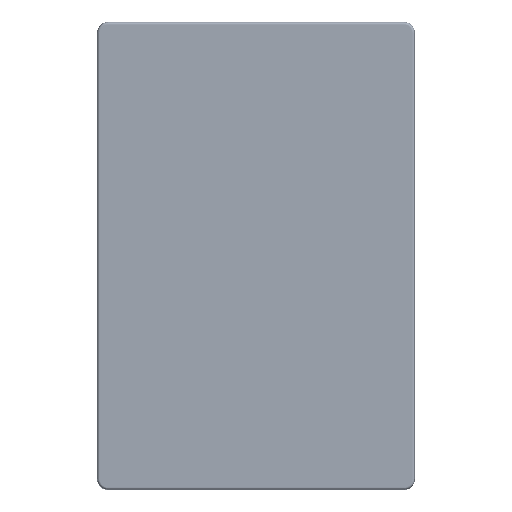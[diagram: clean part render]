
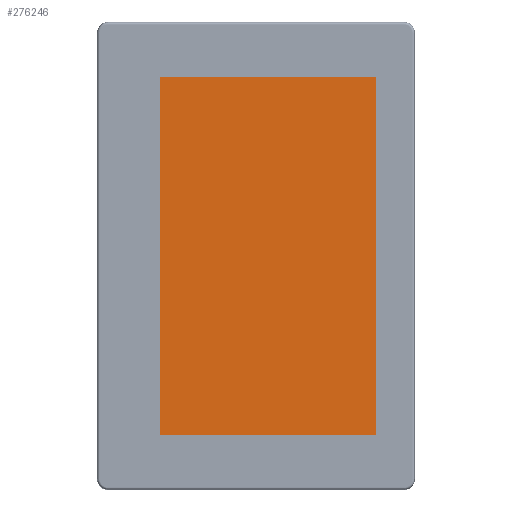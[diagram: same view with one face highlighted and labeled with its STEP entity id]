
A CAD part, top view. The second image highlights one B-rep face of the part: STEP entity #276246.
In plain terms, the highlighted planar face has unit normal (0, 0, 1).
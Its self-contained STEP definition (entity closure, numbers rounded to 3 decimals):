
#262493=DIRECTION('',(0.,-1.,0.));
#262494=VECTOR('',#262493,91.2);
#262495=CARTESIAN_POINT('',(75.7,50.6,0.1));
#262496=LINE('',#262495,#262494);
#262500=DIRECTION('',(-1.,0.,0.));
#262501=VECTOR('',#262500,151.4);
#262502=CARTESIAN_POINT('',(75.7,-40.6,0.1));
#262503=LINE('',#262502,#262501);
#262507=DIRECTION('',(0.,1.,0.));
#262508=VECTOR('',#262507,91.2);
#262509=CARTESIAN_POINT('',(-75.7,-40.6,0.1));
#262510=LINE('',#262509,#262508);
#262514=DIRECTION('',(1.,0.,0.));
#262515=VECTOR('',#262514,151.4);
#262516=CARTESIAN_POINT('',(-75.7,50.6,0.1));
#262517=LINE('',#262516,#262515);
#273419=CARTESIAN_POINT('',(75.7,50.6,0.1));
#273420=CARTESIAN_POINT('',(75.7,-40.6,0.1));
#273421=VERTEX_POINT('',#273419);
#273422=VERTEX_POINT('',#273420);
#273423=CARTESIAN_POINT('',(-75.7,-40.6,0.1));
#273424=VERTEX_POINT('',#273423);
#273425=CARTESIAN_POINT('',(-75.7,50.6,0.1));
#273426=VERTEX_POINT('',#273425);
#276235=CARTESIAN_POINT('',(0.,0.,0.1));
#276236=DIRECTION('',(0.,0.,-1.));
#276237=DIRECTION('',(-1.,0.,0.));
#276238=AXIS2_PLACEMENT_3D('',#276235,#276236,#276237);
#276239=PLANE('',#276238);
#276240=ORIENTED_EDGE('',*,*,#276187,.T.);
#276241=ORIENTED_EDGE('',*,*,#276202,.T.);
#276242=ORIENTED_EDGE('',*,*,#276216,.T.);
#276243=ORIENTED_EDGE('',*,*,#276229,.T.);
#276244=EDGE_LOOP('',(#276240,#276241,#276242,#276243));
#276245=FACE_OUTER_BOUND('',#276244,.F.);
#276187=EDGE_CURVE('',#273421,#273422,#262496,.T.);
#276202=EDGE_CURVE('',#273422,#273424,#262503,.T.);
#276216=EDGE_CURVE('',#273424,#273426,#262510,.T.);
#276229=EDGE_CURVE('',#273426,#273421,#262517,.T.);
#276246=ADVANCED_FACE('',(#276245),#276239,.F.);
